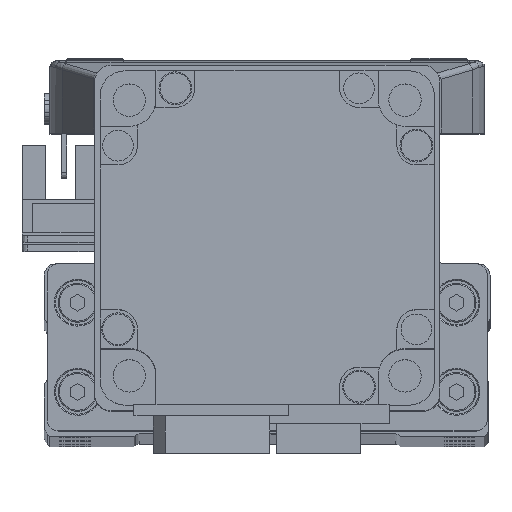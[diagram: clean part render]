
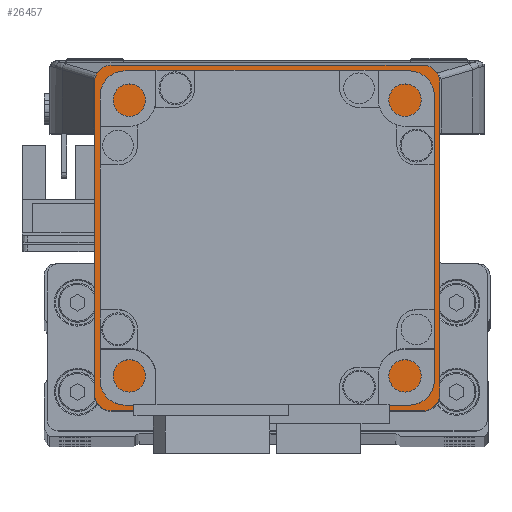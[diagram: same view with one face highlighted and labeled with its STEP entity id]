
A CAD part, top view. The second image highlights one B-rep face of the part: STEP entity #26457.
In plain terms, the highlighted planar face has unit normal (0, 0, 1).
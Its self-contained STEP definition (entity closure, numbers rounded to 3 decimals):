
#2914 = ORIENTED_EDGE ( 'NONE', *, *, #22812, .T. ) ;
#2916 = ORIENTED_EDGE ( 'NONE', *, *, #22859, .T. ) ;
#2924 = ORIENTED_EDGE ( 'NONE', *, *, #22846, .T. ) ;
#2936 = ORIENTED_EDGE ( 'NONE', *, *, #22806, .T. ) ;
#2937 = ORIENTED_EDGE ( 'NONE', *, *, #22804, .T. ) ;
#2938 = ORIENTED_EDGE ( 'NONE', *, *, #22823, .T. ) ;
#2954 = ORIENTED_EDGE ( 'NONE', *, *, #23372, .F. ) ;
#2955 = ORIENTED_EDGE ( 'NONE', *, *, #22799, .T. ) ;
#2961 = ORIENTED_EDGE ( 'NONE', *, *, #22818, .F. ) ;
#2986 = ORIENTED_EDGE ( 'NONE', *, *, #22852, .T. ) ;
#12453 = CARTESIAN_POINT ( 'NONE',  ( -27.995, 66.495, 79. ) ) ;
#12498 = CARTESIAN_POINT ( 'NONE',  ( 30.995, 63.495, 79. ) ) ;
#12515 = CARTESIAN_POINT ( 'NONE',  ( -30.995, 7.505, 79. ) ) ;
#12520 = CARTESIAN_POINT ( 'NONE',  ( -30.995, 63.495, 79. ) ) ;
#12523 = CARTESIAN_POINT ( 'NONE',  ( 30.995, 7.505, 79. ) ) ;
#12535 = CARTESIAN_POINT ( 'NONE',  ( 27.995, 4.505, 79. ) ) ;
#12554 = CARTESIAN_POINT ( 'NONE',  ( 27.995, 66.495, 79. ) ) ;
#12556 = CARTESIAN_POINT ( 'NONE',  ( -27.995, 4.505, 79. ) ) ;
#13043 = AXIS2_PLACEMENT_3D ( 'NONE', #35769, #35770, #35719 ) ;
#13671 = AXIS2_PLACEMENT_3D ( 'NONE', #31362, #31440, #31377 ) ;
#13696 = AXIS2_PLACEMENT_3D ( 'NONE', #31421, #31398, #31424 ) ;
#13700 = AXIS2_PLACEMENT_3D ( 'NONE', #31429, #31356, #31431 ) ;
#13711 = AXIS2_PLACEMENT_3D ( 'NONE', #31610, #31549, #31568 ) ;
#13713 = AXIS2_PLACEMENT_3D ( 'NONE', #31320, #31337, #31321 ) ;
#13861 = AXIS2_PLACEMENT_3D ( 'NONE', #24417, #24409, #24412 ) ;
#22799 = EDGE_CURVE ( 'NONE', #47529, #47551, #38280, .T. ) ;
#22804 = EDGE_CURVE ( 'NONE', #47487, #47540, #38245, .T. ) ;
#22806 = EDGE_CURVE ( 'NONE', #47536, #47571, #38266, .T. ) ;
#22812 = EDGE_CURVE ( 'NONE', #47560, #47529, #38302, .T. ) ;
#22818 = EDGE_CURVE ( 'NONE', #26611, #26570, #38273, .T. ) ;
#22823 = EDGE_CURVE ( 'NONE', #47551, #47536, #38343, .T. ) ;
#22846 = EDGE_CURVE ( 'NONE', #47553, #47560, #38353, .T. ) ;
#22852 = EDGE_CURVE ( 'NONE', #47571, #47487, #38342, .T. ) ;
#22859 = EDGE_CURVE ( 'NONE', #47540, #47553, #38391, .T. ) ;
#23372 = EDGE_CURVE ( 'NONE', #26570, #26611, #43922, .T. ) ;
#24409 = DIRECTION ( 'NONE',  ( 0., 0., 1. ) ) ;
#24412 = DIRECTION ( 'NONE',  ( 1., 0., 0. ) ) ;
#24417 = CARTESIAN_POINT ( 'NONE',  ( 0., 35.5, 79. ) ) ;
#26457 = ADVANCED_FACE ( 'NONE', ( #35364, #35372 ), #35739, .T. ) ;
#26570 = VERTEX_POINT ( 'NONE', #36162 ) ;
#26611 = VERTEX_POINT ( 'NONE', #36349 ) ;
#28356 = EDGE_LOOP ( 'NONE', ( #2961, #2954 ) ) ;
#28359 = EDGE_LOOP ( 'NONE', ( #2916, #2924, #2914, #2955, #2938, #2936, #2986, #2937 ) ) ;
#31320 = CARTESIAN_POINT ( 'NONE',  ( 27.995, 7.505, 79. ) ) ;
#31321 = DIRECTION ( 'NONE',  ( 1., 0., 0. ) ) ;
#31337 = DIRECTION ( 'NONE',  ( 0., 0., 1. ) ) ;
#31356 = DIRECTION ( 'NONE',  ( 0., 0., 1. ) ) ;
#31362 = CARTESIAN_POINT ( 'NONE',  ( 27.995, 63.495, 79. ) ) ;
#31364 = CARTESIAN_POINT ( 'NONE',  ( 30.995, 4.505, 79. ) ) ;
#31377 = DIRECTION ( 'NONE',  ( 1., 0., 0. ) ) ;
#31398 = DIRECTION ( 'NONE',  ( 0., 0., 1. ) ) ;
#31402 = DIRECTION ( 'NONE',  ( 1., 0., 0. ) ) ;
#31421 = CARTESIAN_POINT ( 'NONE',  ( 0., 35.5, 79. ) ) ;
#31424 = DIRECTION ( 'NONE',  ( 1., 0., 0. ) ) ;
#31429 = CARTESIAN_POINT ( 'NONE',  ( -27.995, 63.495, 79. ) ) ;
#31431 = DIRECTION ( 'NONE',  ( 1., 0., 0. ) ) ;
#31437 = CARTESIAN_POINT ( 'NONE',  ( 30.995, 4.505, 79. ) ) ;
#31440 = DIRECTION ( 'NONE',  ( 0., 0., 1. ) ) ;
#31513 = DIRECTION ( 'NONE',  ( 0., 1., 0. ) ) ;
#31540 = DIRECTION ( 'NONE',  ( 0., -1., 0. ) ) ;
#31549 = DIRECTION ( 'NONE',  ( 0., 0., 1. ) ) ;
#31557 = DIRECTION ( 'NONE',  ( -1., 0., 0. ) ) ;
#31568 = DIRECTION ( 'NONE',  ( 1., 0., 0. ) ) ;
#31584 = CARTESIAN_POINT ( 'NONE',  ( -30.995, 4.505, 79. ) ) ;
#31610 = CARTESIAN_POINT ( 'NONE',  ( -27.995, 7.505, 79. ) ) ;
#31622 = CARTESIAN_POINT ( 'NONE',  ( 30.995, 66.495, 79. ) ) ;
#35364 = FACE_BOUND ( 'NONE', #28356, .T. ) ;
#35372 = FACE_OUTER_BOUND ( 'NONE', #28359, .T. ) ;
#35719 = DIRECTION ( 'NONE',  ( 1., 0., 0. ) ) ;
#35739 = PLANE ( 'NONE',  #13043 ) ;
#35769 = CARTESIAN_POINT ( 'NONE',  ( 0., 0., 79. ) ) ;
#35770 = DIRECTION ( 'NONE',  ( 0., 0., 1. ) ) ;
#36162 = CARTESIAN_POINT ( 'NONE',  ( -25., 35.5, 79. ) ) ;
#36349 = CARTESIAN_POINT ( 'NONE',  ( 25., 35.5, 79. ) ) ;
#38245 = CIRCLE ( 'NONE', #13700, 3. ) ;
#38247 = VECTOR ( 'NONE', #31402, 1000. ) ;
#38266 = CIRCLE ( 'NONE', #13671, 3. ) ;
#38273 = CIRCLE ( 'NONE', #13696, 25. ) ;
#38280 = CIRCLE ( 'NONE', #13713, 3. ) ;
#38302 = LINE ( 'NONE', #31364, #38247 ) ;
#38323 = VECTOR ( 'NONE', #31513, 1000. ) ;
#38342 = LINE ( 'NONE', #31622, #38347 ) ;
#38343 = LINE ( 'NONE', #31437, #38323 ) ;
#38347 = VECTOR ( 'NONE', #31557, 1000. ) ;
#38353 = CIRCLE ( 'NONE', #13711, 3. ) ;
#38388 = VECTOR ( 'NONE', #31540, 1000. ) ;
#38391 = LINE ( 'NONE', #31584, #38388 ) ;
#43922 = CIRCLE ( 'NONE', #13861, 25. ) ;
#47487 = VERTEX_POINT ( 'NONE', #12453 ) ;
#47529 = VERTEX_POINT ( 'NONE', #12535 ) ;
#47536 = VERTEX_POINT ( 'NONE', #12498 ) ;
#47540 = VERTEX_POINT ( 'NONE', #12520 ) ;
#47551 = VERTEX_POINT ( 'NONE', #12523 ) ;
#47553 = VERTEX_POINT ( 'NONE', #12515 ) ;
#47560 = VERTEX_POINT ( 'NONE', #12556 ) ;
#47571 = VERTEX_POINT ( 'NONE', #12554 ) ;
